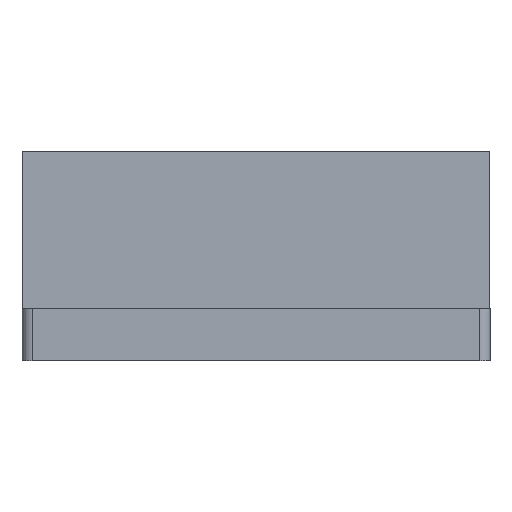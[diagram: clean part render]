
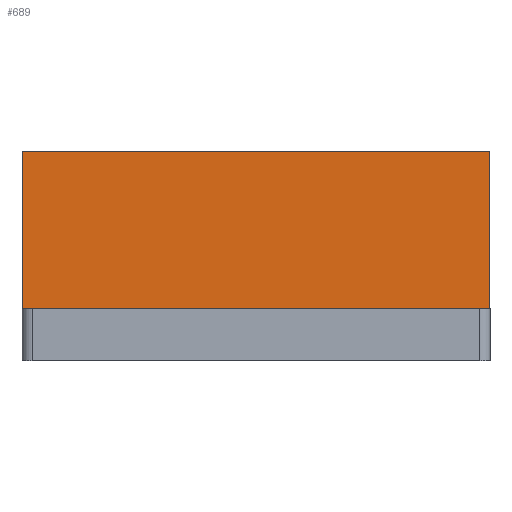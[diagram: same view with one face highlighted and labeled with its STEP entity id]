
A CAD part, left-side view. The second image highlights one B-rep face of the part: STEP entity #689.
In plain terms, the highlighted planar face has unit normal (-1, 0, 0).
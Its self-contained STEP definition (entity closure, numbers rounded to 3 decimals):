
#36 = LINE ( 'NONE', #676, #1325 ) ;
#91 = EDGE_CURVE ( 'NONE', #1715, #604, #1435, .T. ) ;
#184 = EDGE_CURVE ( 'NONE', #309, #604, #1351, .T. ) ;
#218 = ORIENTED_EDGE ( 'NONE', *, *, #501, .F. ) ;
#244 = CARTESIAN_POINT ( 'NONE',  ( -42.5, -45.25, 10.1 ) ) ;
#309 = VERTEX_POINT ( 'NONE', #1840 ) ;
#354 = CARTESIAN_POINT ( 'NONE',  ( -42.5, -45.25, 40.6 ) ) ;
#391 = DIRECTION ( 'NONE',  ( 0., 0., -1. ) ) ;
#501 = EDGE_CURVE ( 'NONE', #1477, #1715, #36, .T. ) ;
#546 = EDGE_LOOP ( 'NONE', ( #1137, #1881, #218, #696 ) ) ;
#604 = VERTEX_POINT ( 'NONE', #244 ) ;
#612 = CARTESIAN_POINT ( 'NONE',  ( -42.5, -45.25, 40.6 ) ) ;
#632 = FACE_OUTER_BOUND ( 'NONE', #546, .T. ) ;
#656 = DIRECTION ( 'NONE',  ( 0., -1., 0. ) ) ;
#676 = CARTESIAN_POINT ( 'NONE',  ( -42.5, -45.25, 40.6 ) ) ;
#689 = ADVANCED_FACE ( 'NONE', ( #632 ), #1232, .F. ) ;
#696 = ORIENTED_EDGE ( 'NONE', *, *, #1013, .T. ) ;
#697 = CARTESIAN_POINT ( 'NONE',  ( -42.5, 45.25, 40.6 ) ) ;
#711 = DIRECTION ( 'NONE',  ( 0., -1., 0. ) ) ;
#975 = CARTESIAN_POINT ( 'NONE',  ( -42.5, -45.25, 40.6 ) ) ;
#1013 = EDGE_CURVE ( 'NONE', #1477, #309, #1337, .T. ) ;
#1137 = ORIENTED_EDGE ( 'NONE', *, *, #184, .T. ) ;
#1232 = PLANE ( 'NONE',  #1486 ) ;
#1323 = VECTOR ( 'NONE', #711, 1000. ) ;
#1325 = VECTOR ( 'NONE', #656, 1000. ) ;
#1337 = LINE ( 'NONE', #697, #1455 ) ;
#1351 = LINE ( 'NONE', #1810, #1323 ) ;
#1435 = LINE ( 'NONE', #975, #1516 ) ;
#1455 = VECTOR ( 'NONE', #391, 1000. ) ;
#1477 = VERTEX_POINT ( 'NONE', #1833 ) ;
#1486 = AXIS2_PLACEMENT_3D ( 'NONE', #612, #1540, #2034 ) ;
#1516 = VECTOR ( 'NONE', #1941, 1000. ) ;
#1540 = DIRECTION ( 'NONE',  ( 1., 0., 0. ) ) ;
#1715 = VERTEX_POINT ( 'NONE', #354 ) ;
#1810 = CARTESIAN_POINT ( 'NONE',  ( -42.5, -45.25, 10.1 ) ) ;
#1833 = CARTESIAN_POINT ( 'NONE',  ( -42.5, 45.25, 40.6 ) ) ;
#1840 = CARTESIAN_POINT ( 'NONE',  ( -42.5, 45.25, 10.1 ) ) ;
#1881 = ORIENTED_EDGE ( 'NONE', *, *, #91, .F. ) ;
#1941 = DIRECTION ( 'NONE',  ( 0., 0., -1. ) ) ;
#2034 = DIRECTION ( 'NONE',  ( 0., 0., -1. ) ) ;
